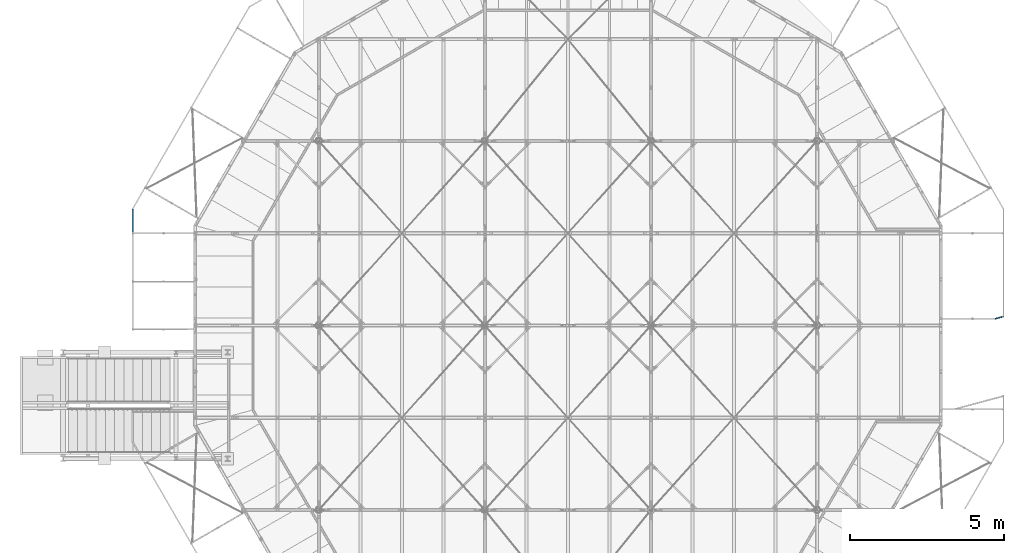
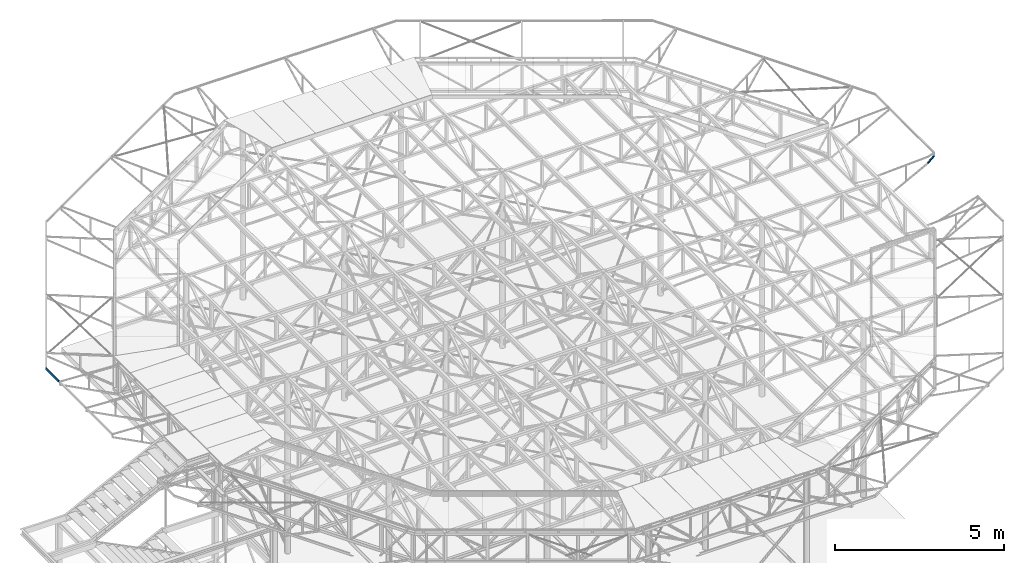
# One storey, part 25 of 132: 1 beam, 1 member, 2 elements without a shape of their own.
"""IFC2X3 building model written with IfcOpenShell, lengths in millimetres."""

from ifc_helpers import new_model, si_unit, frame, origin_with_axes, origin_2d_with_axis, place, context, subcontext, project, spatial, polyline, hollow_rectangle, u_section, outline, extrude, boolean, clip, halfspace, material, type_object, element, aggregate, save


model = new_model("IFC2X3")

# Units and contexts
model_context = context("Model", 3, precision=1e-05, world=origin_with_axes())
body_context = subcontext(model_context, "Body", "Model", "MODEL_VIEW")
ifc_project = project(units=[si_unit("LENGTHUNIT", "METRE", prefix="MILLI"), si_unit("AREAUNIT", "SQUARE_METRE"), si_unit("VOLUMEUNIT", "CUBIC_METRE"), si_unit("MASSUNIT", "GRAM", prefix="KILO"), si_unit("TIMEUNIT", "SECOND"), si_unit("PLANEANGLEUNIT", "RADIAN"), si_unit("SOLIDANGLEUNIT", "STERADIAN"), si_unit("THERMODYNAMICTEMPERATUREUNIT", "DEGREE_CELSIUS"), si_unit("LUMINOUSINTENSITYUNIT", "LUMEN")], contexts=[model_context])

# Site, building, storey
site_placement = place(None, origin_with_axes())
site = spatial("IfcSite", under=ifc_project, at=site_placement, Name="Budowa", CompositionType="ELEMENT")
building_placement = place(site_placement, origin_with_axes())
building = spatial("IfcBuilding", under=site, at=building_placement, Name="Undefined", CompositionType="ELEMENT")
storey_placement = place(building_placement, origin_with_axes())
storey = spatial("IfcBuildingStorey", under=building, at=storey_placement, Name="Undefined", CompositionType="ELEMENT", Elevation=0.0)

# Assembly, beam
assembly_1_placement = place(storey_placement, origin_with_axes())
assembly_1 = element("IfcElementAssembly", 1, at=assembly_1_placement, inside=storey, Name="Steel Assembly", AssemblyPlace="NOTDEFINED", PredefinedType="RIGID_FRAME")
ifc_material = material(Name="STEEL/S235")
beam_type = type_object("IfcBeamType", Name="C70*40*4", PredefinedType="NOTDEFINED")
beam_placement = place(assembly_1_placement, frame((-2030.00038150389, 16545.0000001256, 13945.0050191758), z_axis=(0.0, 0.0, -1.0), x_axis=(0.0, -1.0, 0.0)))
beam = element("IfcBeam", 2, at=beam_placement, type_object=beam_type, material=ifc_material, Name="BEAM", ObjectType="C70*40*4", context=body_context, shape_type="Clipping", body=[
    clip(extrude(u_section(Depth=70.0, FlangeWidth=40.0, WebThickness=4.0, FlangeThickness=4.0, FilletRadius=6.0, at=origin_2d_with_axis()), frame((1520.00000003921, 0.0, 0.0), z_axis=(-1.0, 0.0, 0.0), x_axis=(0.0, -1.0, 0.0)), (0.0, 0.0, 1.0), 773.06), halfspace(frame((746.991277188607, 19.9999999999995, -3.13120835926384e-08), z_axis=(0.965930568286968, 0.258801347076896, 0.0), x_axis=(0.0, 0.0, -1.0)), True)),
])
aggregate(assembly_1, [beam])

# Assembly, member
assembly_2_placement = place(storey_placement, origin_with_axes())
assembly_2 = element("IfcElementAssembly", 3, at=assembly_2_placement, inside=storey, Name="Steel Assembly", AssemblyPlace="NOTDEFINED", PredefinedType="RIGID_FRAME")
member_type = type_object("IfcMemberType", Name="SHS50*4", PredefinedType="NOTDEFINED")
member_placement = place(assembly_2_placement, frame((24349.0587674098, 11774.2262445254, 12835.5555982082), z_axis=(-0.258819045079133, 0.965925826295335, 0.0), x_axis=(0.861116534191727, 0.230735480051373, 0.453033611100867)))
member = element("IfcMember", 4, at=member_placement, type_object=member_type, material=ifc_material, Name="BEAM", ObjectType="SHS50*4", context=body_context, shape_type="CSG", body=[
    boolean("DIFFERENCE", boolean("DIFFERENCE", boolean("DIFFERENCE", extrude(hollow_rectangle(XDim=50.0, YDim=50.0, WallThickness=4.0, InnerFilletRadius=4.0, OuterFilletRadius=8.0, at=origin_2d_with_axis()), frame((2270.82211481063, 2.05873219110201e-12, 9.36554003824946e-13), z_axis=(-1.0, 0.0, 0.0), x_axis=(0.0, -1.0, 0.0)), (0.0, 0.0, 1.0), 2368.69), extrude(outline(polyline([(0.0, 0.0), (50.47891998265, 1.45519152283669e-10), (496.219299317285, 2154.37133791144), (-77.3682098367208, 1978.31054689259), (0.0, 0.0)])), frame((2004.17589467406, -134.826224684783, 24.9999999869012), z_axis=(-0.453033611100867, 0.89149343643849, 6.47467218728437e-11), x_axis=(-0.110209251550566, -0.0560054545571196, -0.992329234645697)), (0.0, 0.0, 1.0), 1088.0)), halfspace(frame((2245.37694878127, 25.0000000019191, -2.87608600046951e-07), z_axis=(-0.852359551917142, 0.522956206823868, 1.21815370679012e-10), x_axis=(0.0, 0.0, 1.0)), True)), halfspace(frame((374.820054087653, -978.448084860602, -217.307429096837), z_axis=(-0.861116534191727, -0.437596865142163, 0.258819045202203), x_axis=(-0.453033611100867, 0.89149343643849, 6.47467218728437e-11)), False)),
])
aggregate(assembly_2, [member])

save(model, "model.ifc")
